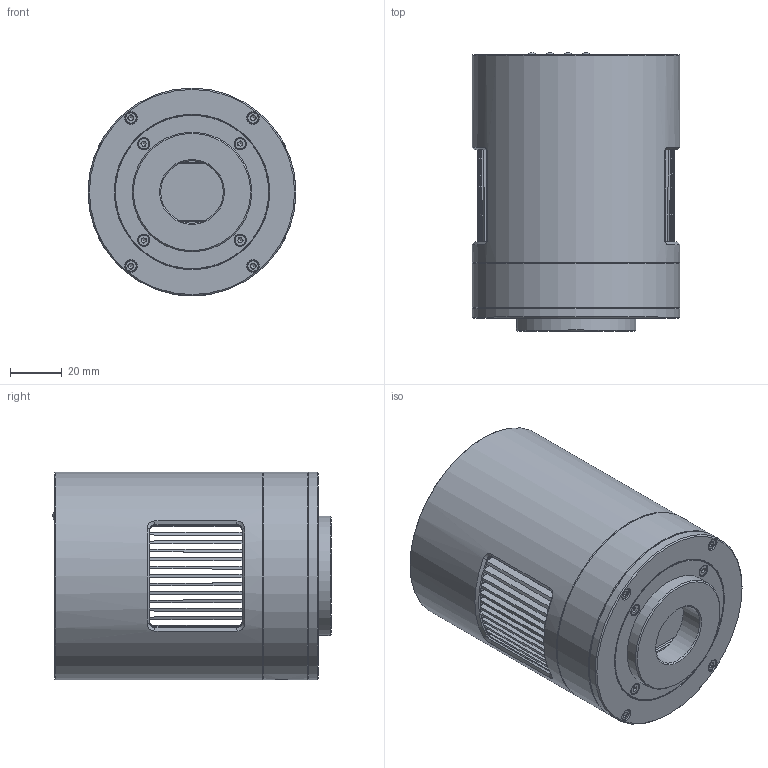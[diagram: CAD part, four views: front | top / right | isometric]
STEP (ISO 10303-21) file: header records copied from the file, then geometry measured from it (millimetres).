
FILE_DESCRIPTION(('STEP AP214'),'1');
FILE_NAME('MS2000HC.stp','2026-05-20T02:30:08',(' '),(' '),'Spatial InterOp 3D',' ',' ');
FILE_SCHEMA(('AUTOMOTIVE_DESIGN { 1 0 10303 214 1 1 1 1 }'));
Length unit declared in the file: metre
Products named in the file (2): MS2000HC; Component1
Assembly tree (1 placements, depth 2):
  MS2000HC
    Component1
Bounding box: 80 x 107.3 x 80 mm (x, y, z)
Volume: 216429 mm3; surface area: 198595.8 mm2
Topology: 1 solids, 18 shells, 3590 faces, 9692 edges, 6185 vertices
Faces by surface type: plane 2310, cylinder 810, cone 219, bspline 190, torus 52, sphere 9
Full cylindrical faces by diameter (mm): 1.35 x1, 1.4 x2, 2 x1, 2.05 x4, 2.38 x8, 2.4 x1, 2.6 x4, 2.7 x4, 2.8 x2, 2.85 x2, 2.874 x4, 3 x12, 3.2 x8, 4 x4, 4.11 x1, 4.2 x1, 4.5 x12, 4.555 x1, 4.8 x8, 5 x4, 5.5 x4, 8 x1, 8.6 x1, 18 x1, 24 x1, 38 x1, 45.6 x1, 46 x2, 57 x1, 58 x1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
Entity records: 193269 total; most frequent: CARTESIAN_POINT 28921, ORIENTED_EDGE 18746, DIRECTION 17499, STYLED_ITEM 12964, PRESENTATION_STYLE_ASSIGNMENT 12964, COLOUR_RGB 12964, EDGE_CURVE 9373, CURVE_STYLE 9373
